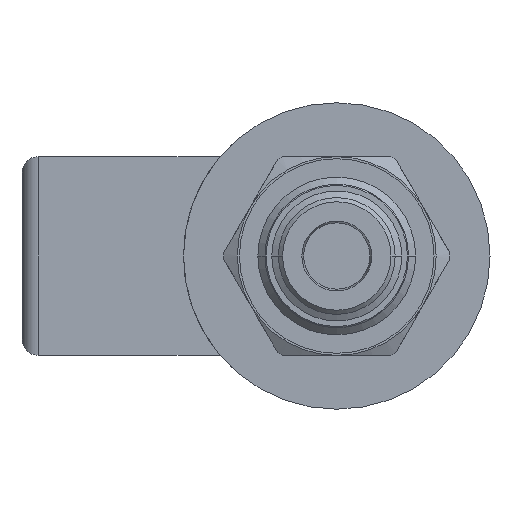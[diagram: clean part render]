
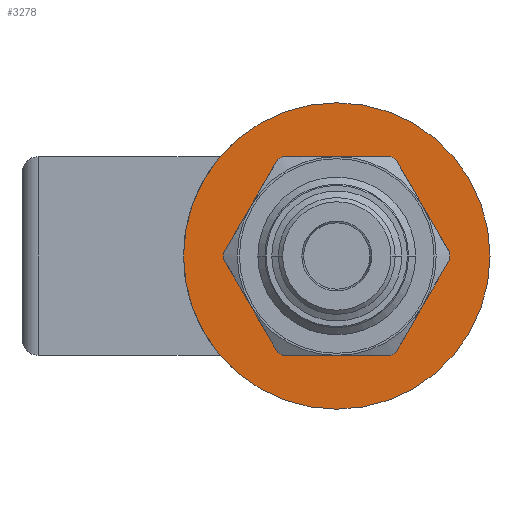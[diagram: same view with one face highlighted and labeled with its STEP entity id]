
A CAD part, left-side view. The second image highlights one B-rep face of the part: STEP entity #3278.
In plain terms, the highlighted planar face has unit normal (-1, 0, 0).
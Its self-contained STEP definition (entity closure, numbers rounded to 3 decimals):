
#1144=CARTESIAN_POINT('',(10.,-10.392,-6.));
#1191=CARTESIAN_POINT('',(10.,0.,0.));
#1192=DIRECTION('',(1.,0.,0.));
#1193=DIRECTION('',(0.,1.,0.));
#1194=AXIS2_PLACEMENT_3D('',#1191,#1192,#1193);
#1196=CARTESIAN_POINT('',(10.,0.,0.));
#1197=DIRECTION('',(1.,0.,0.));
#1198=DIRECTION('',(0.,-1.,0.));
#1199=AXIS2_PLACEMENT_3D('',#1196,#1197,#1198);
#1201=CARTESIAN_POINT('',(10.,0.,0.));
#1202=DIRECTION('',(-1.,0.,0.));
#1203=DIRECTION('',(0.,0.866,0.5));
#1204=AXIS2_PLACEMENT_3D('',#1201,#1202,#1203);
#1206=CARTESIAN_POINT('',(10.,0.,0.));
#1207=DIRECTION('',(-1.,0.,0.));
#1208=DIRECTION('',(0.,1.,0.));
#1209=AXIS2_PLACEMENT_3D('',#1206,#1207,#1208);
#1211=CARTESIAN_POINT('',(10.,0.,0.));
#1212=DIRECTION('',(-1.,0.,0.));
#1213=DIRECTION('',(0.,0.866,-0.5));
#1214=AXIS2_PLACEMENT_3D('',#1211,#1212,#1213);
#1216=CARTESIAN_POINT('',(10.,0.,0.));
#1217=DIRECTION('',(-1.,0.,0.));
#1218=DIRECTION('',(0.,0.,-1.));
#1219=AXIS2_PLACEMENT_3D('',#1216,#1217,#1218);
#1221=CARTESIAN_POINT('',(10.,0.,0.));
#1222=DIRECTION('',(-1.,0.,0.));
#1223=DIRECTION('',(0.,-0.866,-0.5));
#1224=AXIS2_PLACEMENT_3D('',#1221,#1222,#1223);
#1226=CARTESIAN_POINT('',(10.,0.,0.));
#1227=DIRECTION('',(-1.,0.,0.));
#1228=DIRECTION('',(0.,-1.,0.));
#1229=AXIS2_PLACEMENT_3D('',#1226,#1227,#1228);
#1231=CARTESIAN_POINT('',(10.,0.,0.));
#1232=DIRECTION('',(-1.,0.,0.));
#1233=DIRECTION('',(0.,-0.866,0.5));
#1234=AXIS2_PLACEMENT_3D('',#1231,#1232,#1233);
#1236=CARTESIAN_POINT('',(10.,0.,0.));
#1237=DIRECTION('',(-1.,0.,0.));
#1238=DIRECTION('',(0.,0.,1.));
#1239=AXIS2_PLACEMENT_3D('',#1236,#1237,#1238);
#1535=CARTESIAN_POINT('',(10.,10.392,6.));
#1537=CARTESIAN_POINT('',(10.,0.,12.));
#1882=VERTEX_POINT('',#1537);
#1885=CARTESIAN_POINT('',(10.,-10.392,6.));
#1886=VERTEX_POINT('',#1885);
#1889=VERTEX_POINT('',#1535);
#1891=VERTEX_POINT('',#1144);
#1892=CARTESIAN_POINT('',(10.,0.,-12.));
#1893=VERTEX_POINT('',#1892);
#1896=CARTESIAN_POINT('',(10.,10.392,-6.));
#1897=VERTEX_POINT('',#1896);
#1899=CARTESIAN_POINT('',(10.,12.,0.));
#1900=VERTEX_POINT('',#1899);
#1906=CARTESIAN_POINT('',(10.,18.5,0.));
#1907=CARTESIAN_POINT('',(10.,-18.5,0.));
#1908=VERTEX_POINT('',#1906);
#1909=VERTEX_POINT('',#1907);
#1910=CARTESIAN_POINT('',(10.,-12.,0.));
#1911=VERTEX_POINT('',#1910);
#3253=CARTESIAN_POINT('',(10.,0.,0.));
#3254=DIRECTION('',(1.,0.,0.));
#3255=DIRECTION('',(0.,-1.,0.));
#3256=AXIS2_PLACEMENT_3D('',#3253,#3254,#3255);
#3257=PLANE('',#3256);
#3259=ORIENTED_EDGE('',*,*,#3258,.T.);
#3261=ORIENTED_EDGE('',*,*,#3260,.T.);
#3262=EDGE_LOOP('',(#3259,#3261));
#3263=FACE_OUTER_BOUND('',#3262,.F.);
#3265=ORIENTED_EDGE('',*,*,#3264,.T.);
#3267=ORIENTED_EDGE('',*,*,#3266,.T.);
#3268=ORIENTED_EDGE('',*,*,#3173,.T.);
#3269=ORIENTED_EDGE('',*,*,#3207,.T.);
#3270=ORIENTED_EDGE('',*,*,#3241,.T.);
#3271=ORIENTED_EDGE('',*,*,#3239,.T.);
#3273=ORIENTED_EDGE('',*,*,#3272,.T.);
#3275=ORIENTED_EDGE('',*,*,#3274,.T.);
#3276=EDGE_LOOP('',(#3265,#3267,#3268,#3269,#3270,#3271,#3273,#3275));
#3277=FACE_BOUND('',#3276,.F.);
#1195=CIRCLE('',#1194,18.5);
#1200=CIRCLE('',#1199,18.5);
#1205=CIRCLE('',#1204,12.);
#1210=CIRCLE('',#1209,12.);
#1215=CIRCLE('',#1214,12.);
#1220=CIRCLE('',#1219,12.);
#1225=CIRCLE('',#1224,12.);
#1230=CIRCLE('',#1229,12.);
#1235=CIRCLE('',#1234,12.);
#1240=CIRCLE('',#1239,12.);
#3173=EDGE_CURVE('',#1897,#1893,#1215,.T.);
#3207=EDGE_CURVE('',#1893,#1891,#1220,.T.);
#3239=EDGE_CURVE('',#1911,#1886,#1230,.T.);
#3241=EDGE_CURVE('',#1891,#1911,#1225,.T.);
#3258=EDGE_CURVE('',#1908,#1909,#1195,.T.);
#3260=EDGE_CURVE('',#1909,#1908,#1200,.T.);
#3264=EDGE_CURVE('',#1889,#1900,#1205,.T.);
#3266=EDGE_CURVE('',#1900,#1897,#1210,.T.);
#3272=EDGE_CURVE('',#1886,#1882,#1235,.T.);
#3274=EDGE_CURVE('',#1882,#1889,#1240,.T.);
#3278=ADVANCED_FACE('',(#3263,#3277),#3257,.F.);
